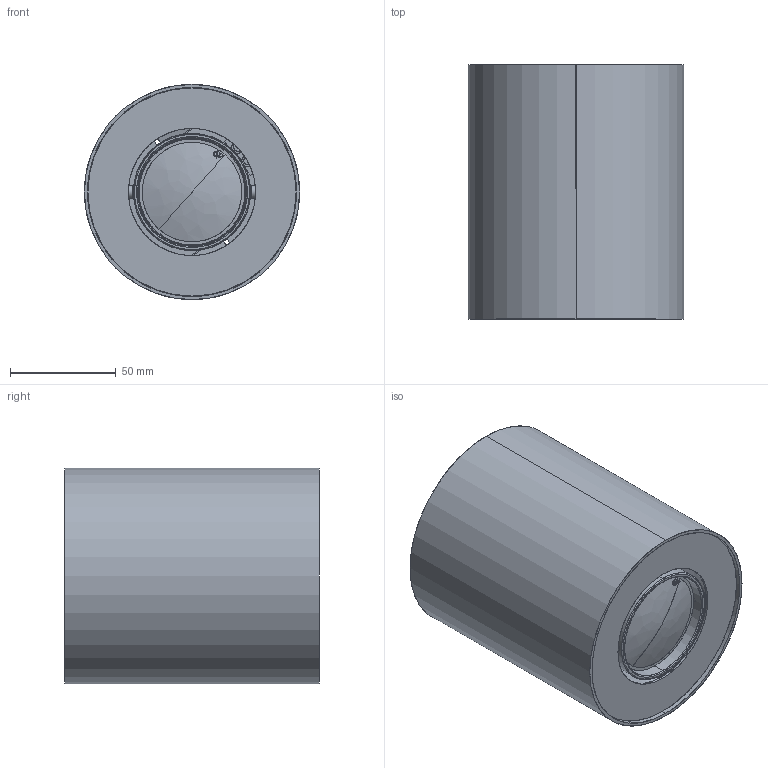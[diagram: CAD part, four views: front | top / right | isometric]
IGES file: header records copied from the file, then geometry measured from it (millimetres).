
Start section: SolidWorks IGES file using analytic representation for surfaces
Global section: file name: F:\GABRYSIA\MODELE 3D\SET-8900-8895-8902-8897-8901-8896-8903-8898-WWW\SET-8900-8895-8902-8897-8901-8896-8903-8898\SET-8900-8895-8902-8897-8901-8896-8903-8898.IGS; native system: SolidWorks 2017; preprocessor: SolidWorks 2017; author: Togambi; date: 200914.075216; units: millimetre
Bounding box: 101.6 x 120 x 101.6 mm (x, y, z)
Surface area: 154943.7 mm2 (no closed solid volume)
Topology: 0 solids, 0 shells, 678 faces, 10176 edges, 10156 vertices
Faces by surface type: bspline 381, revolution 297
